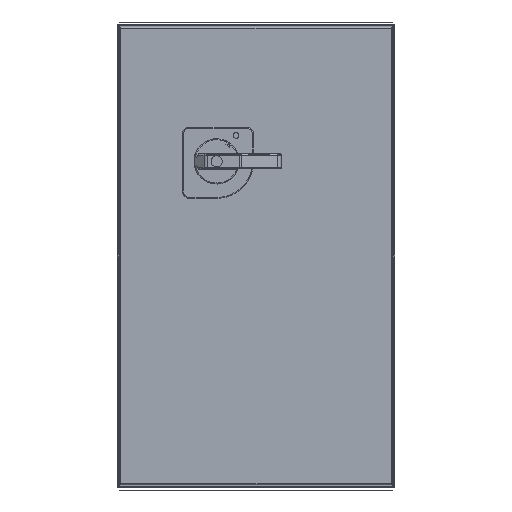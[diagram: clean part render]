
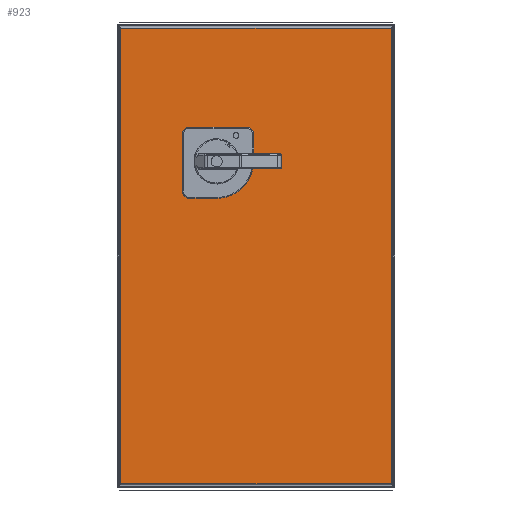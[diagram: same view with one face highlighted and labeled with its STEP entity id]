
A CAD part, front view. The second image highlights one B-rep face of the part: STEP entity #923.
In plain terms, the highlighted planar face has unit normal (0, -1, 0).
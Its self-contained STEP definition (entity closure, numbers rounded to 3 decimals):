
#923=ADVANCED_FACE('',(#1094),#1026,.T.);
#1026=PLANE('',#3122);
#1094=FACE_OUTER_BOUND('',#1207,.T.);
#1207=EDGE_LOOP('',(#1924,#1925,#1926,#1927));
#1404=LINE('',#4192,#1618);
#1409=LINE('',#4207,#1623);
#1414=LINE('',#4220,#1628);
#1419=LINE('',#4233,#1633);
#1618=VECTOR('',#3507,1.);
#1623=VECTOR('',#3520,1.);
#1628=VECTOR('',#3533,1.);
#1633=VECTOR('',#3546,1.);
#1924=ORIENTED_EDGE('',*,*,#2727,.T.);
#1925=ORIENTED_EDGE('',*,*,#2706,.F.);
#1926=ORIENTED_EDGE('',*,*,#2720,.T.);
#1927=ORIENTED_EDGE('',*,*,#2713,.F.);
#2382=VERTEX_POINT('',#4186);
#2385=VERTEX_POINT('',#4191);
#2390=VERTEX_POINT('',#4204);
#2391=VERTEX_POINT('',#4206);
#2706=EDGE_CURVE('',#2385,#2382,#1404,.T.);
#2713=EDGE_CURVE('',#2391,#2390,#1409,.T.);
#2720=EDGE_CURVE('',#2385,#2390,#1414,.T.);
#2727=EDGE_CURVE('',#2391,#2382,#1419,.T.);
#3122=AXIS2_PLACEMENT_3D('',#4241,#3554,#3555);
#3507=DIRECTION('',(-1.,0.,0.));
#3520=DIRECTION('',(1.,0.,0.));
#3533=DIRECTION('',(0.,0.,1.));
#3546=DIRECTION('',(0.,0.,-1.));
#3554=DIRECTION('',(0.,-1.,0.));
#3555=DIRECTION('',(0.,0.,1.));
#4186=CARTESIAN_POINT('',(-146.,-75.,-246.));
#4191=CARTESIAN_POINT('',(146.,-75.,-246.));
#4192=CARTESIAN_POINT('',(146.,-75.,-246.));
#4204=CARTESIAN_POINT('',(146.,-75.,246.));
#4206=CARTESIAN_POINT('',(-146.,-75.,246.));
#4207=CARTESIAN_POINT('',(-146.,-75.,246.));
#4220=CARTESIAN_POINT('',(146.,-75.,-246.));
#4233=CARTESIAN_POINT('',(-146.,-75.,246.));
#4241=CARTESIAN_POINT('',(-160.6,-75.,270.6));
